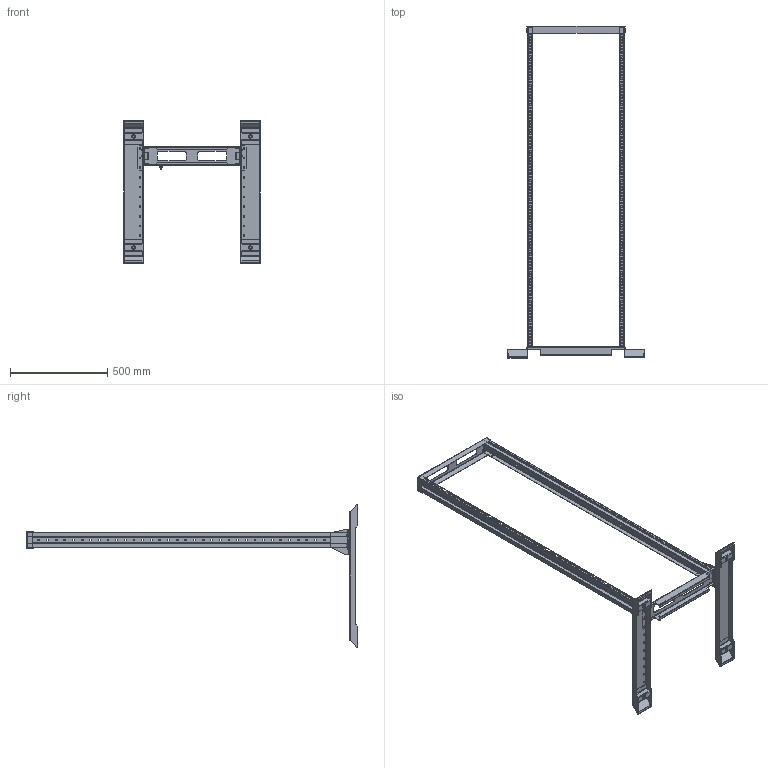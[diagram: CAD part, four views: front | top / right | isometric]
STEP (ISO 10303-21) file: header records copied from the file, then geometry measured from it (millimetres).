
FILE_DESCRIPTION (( 'STEP AP203' ), '1' );
FILE_NAME ('IFO 36.57.74 Ñòîéêà òåëåêîììóíèêàöèîííàÿ.STEP', '2013-01-15T12:23:23', ( 'System' ), ( '' ), 'SwSTEP 2.0', 'SolidWorks 2012', '' );
FILE_SCHEMA (( 'CONFIG_CONTROL_DESIGN' ));
Products named in the file (3): IFO 36.57.74 Ñòîéêà òåëåêîììóíèêàöèîííàÿ; IFO 74 ﾎ魵瑙韃; IFO 36.57 01.000捘 冓憵
Assembly tree (3 placements, depth 2):
  IFO 36.57.74 Ñòîéêà òåëåêîììóíèêàöèîííàÿ
    IFO 36.57 01.000捘 冓憵
    IFO 74 ﾎ魵瑙韃  x2
Bounding box: 700 x 1706.73 x 734.94 mm (x, y, z)
Volume: 1979143.1 mm3; surface area: 1985341.6 mm2
Topology: 4 solids, 4 shells, 3890 faces, 11388 edges, 7488 vertices
Faces by surface type: plane 2192, cylinder 1562, bspline 72, torus 36, cone 28
Entity records: 115873 total; most frequent: CARTESIAN_POINT 21839, ORIENTED_EDGE 19778, DIRECTION 19684, EDGE_CURVE 9889, AXIS2_PLACEMENT_3D 6640, VERTEX_POINT 6503, LINE 6404, VECTOR 6404
